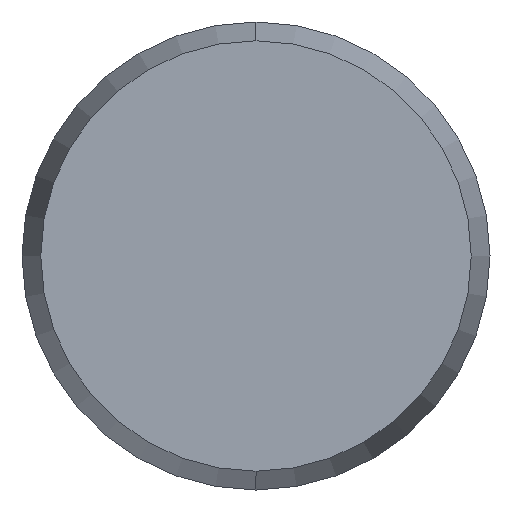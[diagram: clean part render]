
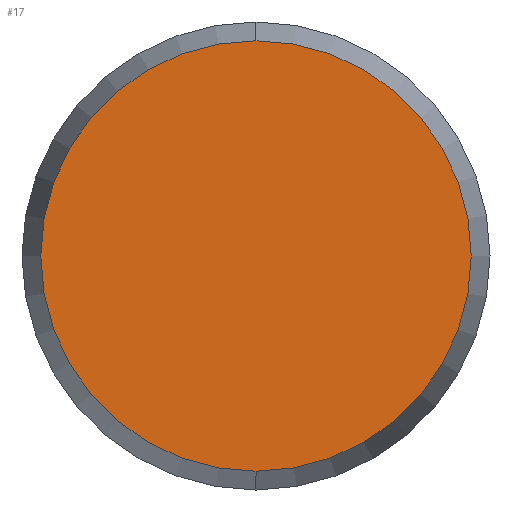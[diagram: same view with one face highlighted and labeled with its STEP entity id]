
A CAD part, left-side view. The second image highlights one B-rep face of the part: STEP entity #17.
In plain terms, the highlighted planar face has unit normal (-1, 0, 0).
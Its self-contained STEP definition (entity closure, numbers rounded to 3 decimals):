
#3 = EDGE_CURVE ( 'NONE', #48, #49, #86, .T. ) ;
#17 = ADVANCED_FACE ( 'NONE', ( #126 ), #123, .F. ) ;
#18 = EDGE_LOOP ( 'NONE', ( #19, #20 ) ) ;
#19 = ORIENTED_EDGE ( 'NONE', *, *, #3, .F. ) ;
#20 = ORIENTED_EDGE ( 'NONE', *, *, #90, .F. ) ;
#48 = VERTEX_POINT ( 'NONE', #96 ) ;
#49 = VERTEX_POINT ( 'NONE', #95 ) ;
#71 = DIRECTION ( 'NONE',  ( 0., 0., -1. ) ) ;
#72 = DIRECTION ( 'NONE',  ( 1., 0., 0. ) ) ;
#84 = CARTESIAN_POINT ( 'NONE',  ( -8., 0., 0. ) ) ;
#85 = AXIS2_PLACEMENT_3D ( 'NONE', #84, #148, #147 ) ;
#86 = CIRCLE ( 'NONE', #85, 4.598 ) ;
#90 = EDGE_CURVE ( 'NONE', #49, #48, #268, .T. ) ;
#95 = CARTESIAN_POINT ( 'NONE',  ( -8., 0., -4.598 ) ) ;
#96 = CARTESIAN_POINT ( 'NONE',  ( -8., 0., 4.598 ) ) ;
#123 = PLANE ( 'NONE',  #125 ) ;
#124 = CARTESIAN_POINT ( 'NONE',  ( -8., 0., 0. ) ) ;
#125 = AXIS2_PLACEMENT_3D ( 'NONE', #124, #72, #71 ) ;
#126 = FACE_OUTER_BOUND ( 'NONE', #18, .T. ) ;
#147 = DIRECTION ( 'NONE',  ( 0., 0., -1. ) ) ;
#148 = DIRECTION ( 'NONE',  ( 1., 0., 0. ) ) ;
#261 = DIRECTION ( 'NONE',  ( 0., 0., -1. ) ) ;
#262 = DIRECTION ( 'NONE',  ( 1., 0., 0. ) ) ;
#263 = CARTESIAN_POINT ( 'NONE',  ( -8., 0., 0. ) ) ;
#264 = AXIS2_PLACEMENT_3D ( 'NONE', #263, #262, #261 ) ;
#268 = CIRCLE ( 'NONE', #264, 4.598 ) ;
